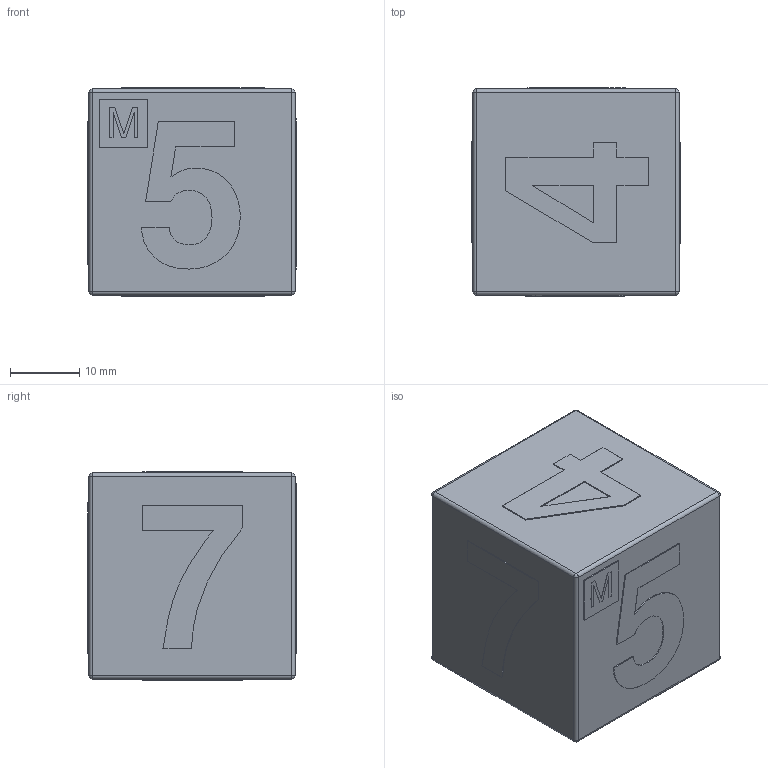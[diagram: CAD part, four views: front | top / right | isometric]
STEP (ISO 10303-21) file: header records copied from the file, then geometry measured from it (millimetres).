
FILE_DESCRIPTION(('Open CASCADE Model'),'2;1');
FILE_NAME('Open CASCADE Shape Model','2025-09-14T20:47:14',('Author'),( 'Open CASCADE'),'Open CASCADE STEP processor 7.8','Open CASCADE 7.8' ,'Unknown');
FILE_SCHEMA(('AUTOMOTIVE_DESIGN { 1 0 10303 214 1 1 1 1 }'));
Length unit declared in the file: millimetre
Products named in the file (20): 9cf457f4-91a3-11f0-88d2-1c1b0deae66b; 9cf45998-91a3-11f0-88d2-1c1b0deae66b; 9cf45998-91a3-11f0-88d2-1c1b0deae66b_part; 9cf9eda4-91a3-11f0-88d2-1c1b0deae66b; 9cf9eda4-91a3-11f0-88d2-1c1b0deae66b_part; 9cfd0d2c-91a3-11f0-88d2-1c1b0deae66b; 9cfd0d2c-91a3-11f0-88d2-1c1b0deae66b_part; 9cfedbac-91a3-11f0-88d2-1c1b0deae66b; 9cfedbac-91a3-11f0-88d2-1c1b0deae66b_part; 9d00098c-91a3-11f0-88d2-1c1b0deae66b; 9d00098c-91a3-11f0-88d2-1c1b0deae66b_part; 9d01542c-91a3-11f0-88d2-1c1b0deae66b; 9d01542c-91a3-11f0-88d2-1c1b0deae66b_part; 9d0287e8-91a3-11f0-88d2-1c1b0deae66b; 9d0287e8-91a3-11f0-88d2-1c1b0deae66b_part; 9d060d0a-91a3-11f0-88d2-1c1b0deae66b; 9d060d0a-91a3-11f0-88d2-1c1b0deae66b_part; 9d060e18-91a3-11f0-88d2-1c1b0deae66b; 9d060e18-91a3-11f0-88d2-1c1b0deae66b_part
Assembly tree (19 placements, depth 4):
  9cf457f4-91a3-11f0-88d2-1c1b0deae66b
    9cf457f4-91a3-11f0-88d2-1c1b0deae66b
      9cf45998-91a3-11f0-88d2-1c1b0deae66b
        9cf45998-91a3-11f0-88d2-1c1b0deae66b_part
      9cf9eda4-91a3-11f0-88d2-1c1b0deae66b
        9cf9eda4-91a3-11f0-88d2-1c1b0deae66b_part
      9cfd0d2c-91a3-11f0-88d2-1c1b0deae66b
        9cfd0d2c-91a3-11f0-88d2-1c1b0deae66b_part
      9cfedbac-91a3-11f0-88d2-1c1b0deae66b
        9cfedbac-91a3-11f0-88d2-1c1b0deae66b_part
      9d00098c-91a3-11f0-88d2-1c1b0deae66b
        9d00098c-91a3-11f0-88d2-1c1b0deae66b_part
      9d01542c-91a3-11f0-88d2-1c1b0deae66b
        9d01542c-91a3-11f0-88d2-1c1b0deae66b_part
      9d0287e8-91a3-11f0-88d2-1c1b0deae66b
        9d0287e8-91a3-11f0-88d2-1c1b0deae66b_part
      9d060d0a-91a3-11f0-88d2-1c1b0deae66b
        9d060d0a-91a3-11f0-88d2-1c1b0deae66b_part
      9d060e18-91a3-11f0-88d2-1c1b0deae66b
        9d060e18-91a3-11f0-88d2-1c1b0deae66b_part
Bounding box: 30 x 30 x 30 mm (x, y, z)
Volume: 26326 mm3; surface area: 7270.6 mm2
Topology: 9 solids, 9 shells, 197 faces, 521 edges, 334 vertices
Faces by surface type: plane 93, extrusion 84, cylinder 12, sphere 8
Entity records: 13135 total; most frequent: CARTESIAN_POINT 2962, DIRECTION 1545, VECTOR 1231, LINE 1147, ORIENTED_EDGE 1026, PCURVE 1026, DEFINITIONAL_REPRESENTATION 1026, EDGE_CURVE 513
